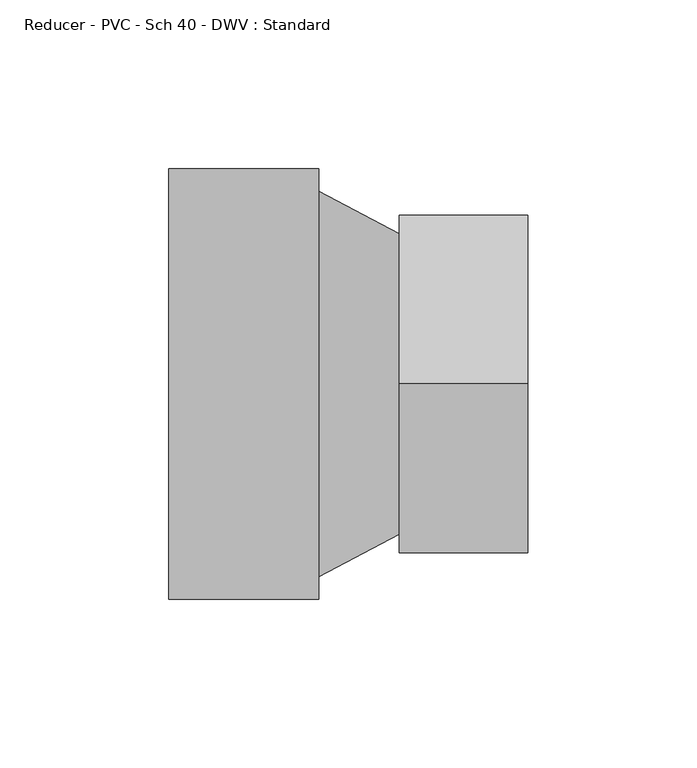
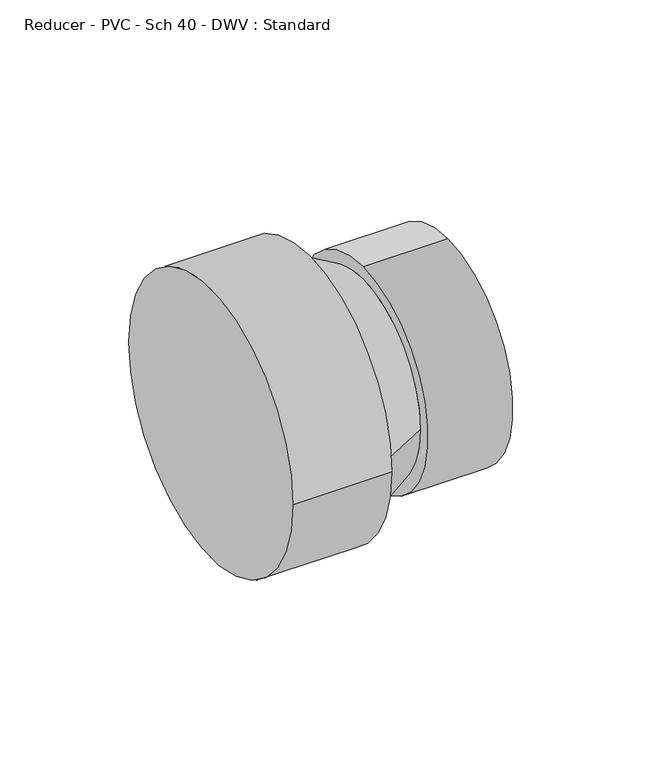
"""IFC4 building model written with IfcOpenShell, lengths in millimetres: pipe fitting geometry, Reducer - PVC - Sch 40 - DWV : Standard."""

from ifc_helpers import new_model, si_unit, frame, origin, place, context, project, spatial, polyline, circle_curve, source, transform, mapped, element, save
from ifc_brep_helpers import plane_surface, cylinder_surface, revolved_surface, advanced_brep


def reducer_pvc_sch_40_dwv_standard_7c527b54(model_context):
    return source(origin(), model_context, "Body", "AdvancedBrep", [
        advanced_brep(
        [(0.0, 63.754, 0.0), (0.0, -63.754, 0.0), (44.45, 63.754, 0.0), (44.45, -63.754, 0.0), (44.45, -57.15, 0.0), (44.45, 57.15, 0.0), (68.2752, 44.45, 0.0), (68.2752, -44.45, 0.0), (68.2752, 0.0, 50.2666), (68.2752, 0.0, -50.2666), (106.3752, 0.0, 50.2666), (106.3752, 0.0, -50.2666)],
        [
            (0, 1, circle_curve(frame((0.0, 0.0, 0.0), z_axis=(-1.0, 0.0, 0.0), x_axis=(0.0, -1.0, 0.0)), 63.754)),
            (1, 0, circle_curve(frame((0.0, 0.0, 0.0), z_axis=(-1.0, 0.0, 0.0), x_axis=(0.0, -1.0, 0.0)), 63.754)),
            (2, 3, circle_curve(frame((44.45, 0.0, 0.0), z_axis=(1.0, 0.0, 0.0), x_axis=(0.0, -1.0, 0.0)), 63.754)),
            (3, 2, circle_curve(frame((44.45, 0.0, 0.0), z_axis=(1.0, 0.0, 0.0), x_axis=(0.0, -1.0, 0.0)), 63.754)),
            (4, 5, circle_curve(frame((44.45, 0.0, 0.0), z_axis=(-1.0, 0.0, 0.0), x_axis=(0.0, -1.0, 0.0)), 57.15)),
            (5, 4, circle_curve(frame((44.45, 0.0, 0.0), z_axis=(-1.0, 0.0, 0.0), x_axis=(0.0, 1.0, 0.0)), 57.15)),
            (1, 3),
            (2, 0),
            (5, 6),
            (6, 7, circle_curve(frame((68.2752, 0.0, 0.0), z_axis=(-1.0, 0.0, 0.0), x_axis=(0.0, 1.0, 0.0)), 44.45)),
            (7, 4),
            (7, 6, circle_curve(frame((68.2752, 0.0, 0.0), z_axis=(-1.0, 0.0, 0.0), x_axis=(0.0, -1.0, 0.0)), 44.45)),
            (8, 9, circle_curve(frame((68.2752, 0.0, 0.0), z_axis=(-1.0, 0.0, 0.0), x_axis=(0.0, 0.0, -1.0)), 50.2666)),
            (9, 8, circle_curve(frame((68.2752, 0.0, 0.0), z_axis=(-1.0, 0.0, 0.0), x_axis=(0.0, 0.0, -1.0)), 50.2666)),
            (10, 11, circle_curve(frame((106.3752, 0.0, 0.0), z_axis=(1.0, 0.0, 0.0), x_axis=(0.0, 0.0, -1.0)), 50.2666)),
            (11, 10, circle_curve(frame((106.3752, 0.0, 0.0), z_axis=(1.0, 0.0, 0.0), x_axis=(0.0, 0.0, -1.0)), 50.2666)),
            (9, 11),
            (10, 8),
        ],
        [
            plane_surface(frame((0.0, 0.0, 0.0), z_axis=(-1.0, 0.0, 0.0), x_axis=(0.0, 0.0, 1.0))),
            plane_surface(frame((44.45, 0.0, 0.0), z_axis=(1.0, 0.0, 0.0), x_axis=(0.0, 0.0, 1.0))),
            cylinder_surface(frame((0.0, 0.0, 0.0), z_axis=(-1.0, 0.0, 0.0), x_axis=(0.0, -1.0, 0.0)), 63.754),
            revolved_surface(polyline([(68.2752, -44.45, 0.0), (44.45, -57.15, 0.0)]), (151.6634, 0.0, 0.0), (-1.0, 0.0, 0.0)),
            revolved_surface(polyline([(68.2752, 44.45, 0.0), (44.45, 57.15, 0.0)]), (151.6634, 0.0, 0.0), (-1.0, 0.0, 0.0)),
            plane_surface(frame((68.2752, 0.0, 0.0), z_axis=(-1.0, 0.0, 0.0), x_axis=(0.0, -1.0, 0.0))),
            plane_surface(frame((106.3752, 0.0, 0.0), z_axis=(1.0, 0.0, 0.0), x_axis=(0.0, -1.0, 0.0))),
            cylinder_surface(frame((68.2752, 0.0, 0.0), z_axis=(-1.0, 0.0, 0.0), x_axis=(0.0, 0.0, -1.0)), 50.2666),
        ],
        [
            (0, [[1, 2]]),
            (1, [[3, 4], [5, 6]]),
            (2, [[7, -3, 8, -2]]),
            (2, [[-8, -4, -7, -1]]),
            (3, [[-6, 9, 10, 11]]),
            (4, [[12, -9, -5, -11]]),
            (5, [[13, 14], [-12, -10]]),
            (6, [[15, 16]]),
            (7, [[17, -15, 18, -14]]),
            (7, [[-18, -16, -17, -13]]),
        ],
    ),
    ])


if __name__ == "__main__":
    model = new_model("IFC4")
    model_context = context("Model", 3, world=origin())
    ifc_project = project(units=[si_unit("LENGTHUNIT", "METRE", prefix="MILLI")], contexts=[model_context])
    site = spatial("IfcSite", under=ifc_project)
    building = spatial("IfcBuilding", under=site)
    placement = place(None, origin())
    reducer_pvc_sch_40_dwv_standard_shape = reducer_pvc_sch_40_dwv_standard_7c527b54(model_context)
    element("IfcPipeFitting", 1, ObjectType="Reducer - PVC - Sch 40 - DWV : Standard", at=placement, inside=building, context=model_context, shape_type="MappedRepresentation", body=[
        mapped(reducer_pvc_sch_40_dwv_standard_shape, transform((0.0, 0.0, 0.0), x_axis=(1.0, 0.0, 0.0), y_axis=(0.0, 1.0, 0.0), z_axis=(0.0, 0.0, 1.0))),
    ])
    save(model, "model.ifc")
